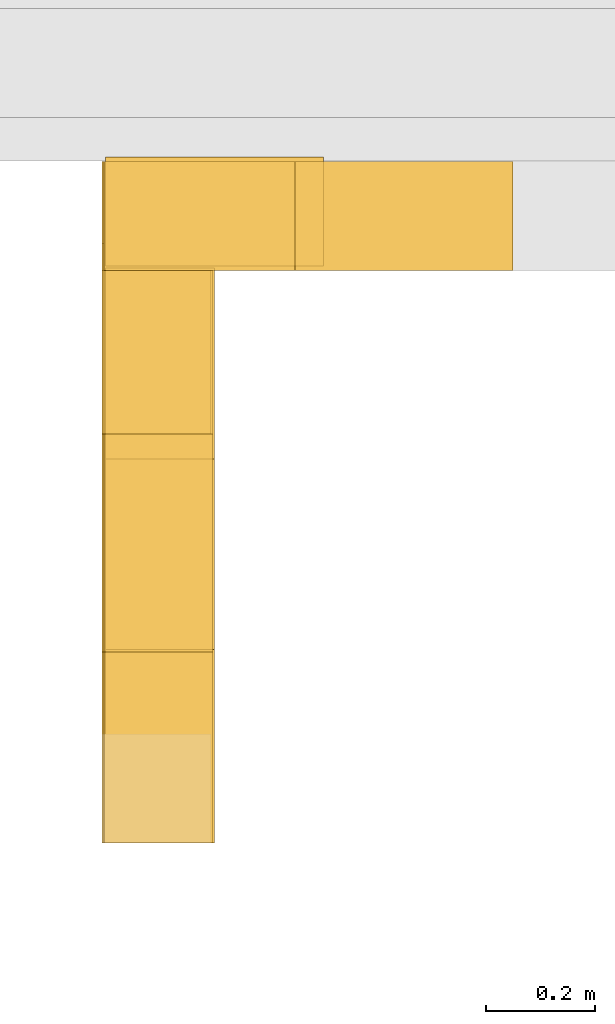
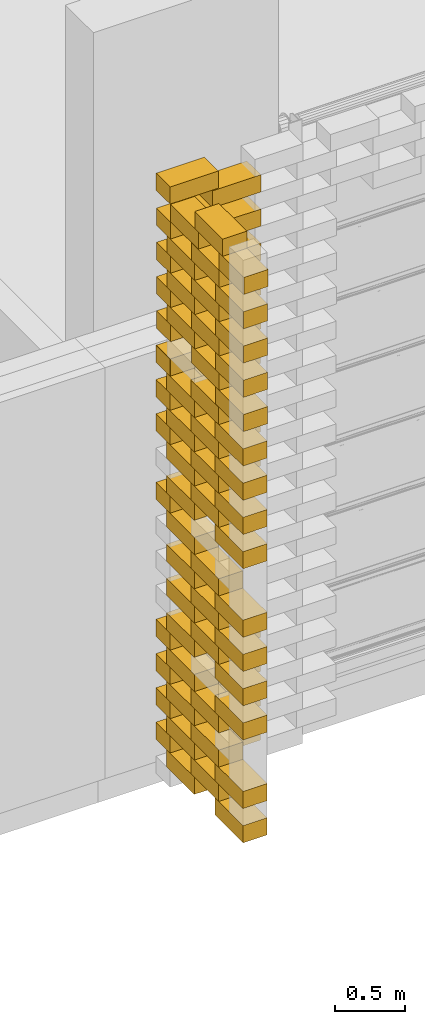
# One storey, part 50 of 62: 72 railings.
"""IFC2X3 building model written with IfcOpenShell, lengths in millimetres."""

from ifc_helpers import new_model, entity, si_unit, converted_unit, derived_unit, money_unit, direction, frame, origin_with_axes, place, context, subcontext, project, spatial, polyline, outline, extrude, material, type_object, element, save


model = new_model("IFC2X3")

# Units and contexts
model_context = context("Model", 3, precision=0.01, world=origin_with_axes(), true_north=direction((0.0, 1.0)))
body_context = subcontext(model_context, "Body", "Model", "MODEL_VIEW")
ifc_project = project(units=[si_unit("LENGTHUNIT", "METRE", prefix="MILLI"), si_unit("AREAUNIT", "SQUARE_METRE"), si_unit("VOLUMEUNIT", "CUBIC_METRE"), converted_unit("PLANEANGLEUNIT", "DEGREE", entity("IfcPlaneAngleMeasure", 0.0174532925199), si_unit("PLANEANGLEUNIT", "RADIAN"), dimensions=[0, 0, 0, 0, 0, 0, 0]), si_unit("SOLIDANGLEUNIT", "STERADIAN"), money_unit("EUR"), converted_unit("TIMEUNIT", "Year", entity("IfcTimeMeasure", 31556926.0), si_unit("TIMEUNIT", "SECOND"), dimensions=[0, 0, 1, 0, 0, 0, 0]), si_unit("MASSUNIT", "GRAM", prefix="KILO"), si_unit("THERMODYNAMICTEMPERATUREUNIT", "DEGREE_CELSIUS"), si_unit("LUMINOUSINTENSITYUNIT", "LUMEN"), si_unit("ENERGYUNIT", "JOULE", prefix="MEGA"), derived_unit("THERMALCONDUCTANCEUNIT", [(si_unit("POWERUNIT", "WATT"), 1), (si_unit("LENGTHUNIT", "METRE"), -1), (si_unit("THERMODYNAMICTEMPERATUREUNIT", "KELVIN"), -1)]), derived_unit("SPECIFICHEATCAPACITYUNIT", [(si_unit("ENERGYUNIT", "JOULE"), 1), (si_unit("MASSUNIT", "GRAM", prefix="KILO"), -1), (si_unit("THERMODYNAMICTEMPERATUREUNIT", "KELVIN"), -1)]), derived_unit("MASSDENSITYUNIT", [(si_unit("MASSUNIT", "GRAM", prefix="KILO"), 1), (si_unit("VOLUMEUNIT", "CUBIC_METRE"), -1)])], contexts=[model_context])

# Site, building, storey
site_placement = place(None, origin_with_axes())
site = spatial("IfcSite", under=ifc_project, at=site_placement, Name="KIRDE 14, ELVA", CompositionType="ELEMENT")
building_placement = place(site_placement, origin_with_axes())
building = spatial("IfcBuilding", under=site, at=building_placement, Name="PPA ja Päästeameti ühishoone", CompositionType="ELEMENT")
storey_placement = place(building_placement, origin_with_axes())
storey = spatial("IfcBuildingStorey", under=building, at=storey_placement, Name="Esimene korrus", CompositionType="ELEMENT", Elevation=0.0)

# Railings
ifc_material = material(Name="Air Space")
railing_type = type_object("IfcRailingType", Name="Air Space 200", PredefinedType="NOTDEFINED")
for number, where, z_axis, x_axis in (
    (1, (9322.96810061, -431.000104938, 2300.0), (0.0, 0.0, 1.0), (1.0, -2.32830643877e-09, 0.0)),
    (2, (9326.56791463, -431.000104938, 3500.0), (0.0, 0.0, 1.0), (1.0, -2.32830643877e-09, 0.0)),
):
    element("IfcRailing", number, at=place(storey_placement, frame(where, z_axis=z_axis, x_axis=x_axis)), inside=storey, type_object=railing_type, material=ifc_material, Name="plokk", PredefinedType="NOTDEFINED", context=body_context, shape_type="SweptSolid", body=[
        extrude(outline(polyline([(0.0, -200.0), (399.999999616, -200.0), (399.999999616, 0.0), (0.0, 0.0), (0.0, -200.0)])), origin_with_axes(), (0.0, 0.0, 1.0), 150.0),
    ])
for number, where, z_axis, x_axis in (
    (3, (9676.56791554, -431.000105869, 4850.0), (0.0, 0.0, 1.0), (1.0, -2.32830643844e-09, 0.0)),
    (4, (9676.56791554, -431.000105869, 3950.0), (0.0, 0.0, 1.0), (1.0, -2.32830643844e-09, 0.0)),
):
    element("IfcRailing", number, at=place(storey_placement, frame(where, z_axis=z_axis, x_axis=x_axis)), inside=storey, type_object=railing_type, material=ifc_material, Name="plokk", PredefinedType="NOTDEFINED", context=body_context, shape_type="SweptSolid", body=[
        extrude(outline(polyline([(0.0, -200.0), (399.999999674, -200.0), (399.999999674, 0.0), (0.0, 0.0), (0.0, -200.0)])), origin_with_axes(), (0.0, 0.0, 1.0), 150.0),
    ])
railing_1_placement = place(storey_placement, frame((9326.56791463, -431.000104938, 3800.0), z_axis=(0.0, 0.0, 1.0), x_axis=(1.0, -2.32830643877e-09, 0.0)))
element("IfcRailing", 5, at=railing_1_placement, inside=storey, type_object=railing_type, material=ifc_material, Name="plokk", PredefinedType="NOTDEFINED", context=body_context, shape_type="SweptSolid", body=[
    extrude(outline(polyline([(0.0, -200.0), (399.999999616, -200.0), (399.999999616, 0.0), (0.0, 0.0), (0.0, -200.0)])), origin_with_axes(), (0.0, 0.0, 1.0), 150.0),
])
railing_2_placement = place(storey_placement, frame((9322.96810095, -931.000105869, 2600.0), z_axis=(0.0, 0.0, 1.0), x_axis=(-4.36557458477e-10, -1.0, 0.0)))
element("IfcRailing", 6, at=railing_2_placement, inside=storey, type_object=railing_type, material=ifc_material, Name="plokk", PredefinedType="NOTDEFINED", context=body_context, shape_type="SweptSolid", body=[
    extrude(outline(polyline([(0.0, 0.0), (399.99999851, 0.0), (399.99999851, 200.0), (0.0, 200.0), (0.0, 0.0)])), origin_with_axes(), (0.0, 0.0, 1.0), 150.0),
])
railing_3_placement = place(storey_placement, frame((9676.56791554, -431.000105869, 3650.0), z_axis=(0.0, 0.0, 1.0), x_axis=(1.0, -2.32830643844e-09, 0.0)))
element("IfcRailing", 7, at=railing_3_placement, inside=storey, type_object=railing_type, material=ifc_material, Name="plokk", PredefinedType="NOTDEFINED", context=body_context, shape_type="SweptSolid", body=[
    extrude(outline(polyline([(0.0, -200.0), (399.999999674, -200.0), (399.999999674, 0.0), (0.0, 0.0), (0.0, -200.0)])), origin_with_axes(), (0.0, 0.0, 1.0), 150.0),
])
railing_4_placement = place(storey_placement, frame((9326.56791463, -431.000104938, 4100.0), z_axis=(0.0, 0.0, 1.0), x_axis=(1.0, -2.32830643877e-09, 0.0)))
element("IfcRailing", 8, at=railing_4_placement, inside=storey, type_object=railing_type, material=ifc_material, Name="plokk", PredefinedType="NOTDEFINED", context=body_context, shape_type="SweptSolid", body=[
    extrude(outline(polyline([(0.0, -200.0), (399.999999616, -200.0), (399.999999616, 0.0), (0.0, 0.0), (0.0, -200.0)])), origin_with_axes(), (0.0, 0.0, 1.0), 150.0),
])
railing_5_placement = place(storey_placement, frame((9676.56791554, -431.000105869, 4250.0), z_axis=(0.0, 0.0, 1.0), x_axis=(1.0, -2.32830643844e-09, 0.0)))
element("IfcRailing", 9, at=railing_5_placement, inside=storey, type_object=railing_type, material=ifc_material, Name="plokk", PredefinedType="NOTDEFINED", context=body_context, shape_type="SweptSolid", body=[
    extrude(outline(polyline([(0.0, -200.0), (399.999999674, -200.0), (399.999999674, 0.0), (0.0, 0.0), (0.0, -200.0)])), origin_with_axes(), (0.0, 0.0, 1.0), 150.0),
])
railing_6_placement = place(storey_placement, frame((9326.56791463, -431.000104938, 4400.0), z_axis=(0.0, 0.0, 1.0), x_axis=(1.0, -2.32830643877e-09, 0.0)))
element("IfcRailing", 10, at=railing_6_placement, inside=storey, type_object=railing_type, material=ifc_material, Name="plokk", PredefinedType="NOTDEFINED", context=body_context, shape_type="SweptSolid", body=[
    extrude(outline(polyline([(0.0, -200.0), (399.999999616, -200.0), (399.999999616, 0.0), (0.0, 0.0), (0.0, -200.0)])), origin_with_axes(), (0.0, 0.0, 1.0), 150.0),
])
railing_7_placement = place(storey_placement, frame((9676.56791554, -431.000105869, 4550.0), z_axis=(0.0, 0.0, 1.0), x_axis=(1.0, -2.32830643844e-09, 0.0)))
element("IfcRailing", 11, at=railing_7_placement, inside=storey, type_object=railing_type, material=ifc_material, Name="plokk", PredefinedType="NOTDEFINED", context=body_context, shape_type="SweptSolid", body=[
    extrude(outline(polyline([(0.0, -200.0), (399.999999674, -200.0), (399.999999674, 0.0), (0.0, 0.0), (0.0, -200.0)])), origin_with_axes(), (0.0, 0.0, 1.0), 150.0),
])
railing_8_placement = place(storey_placement, frame((9326.56791498, -1281.0001055, 3650.0), z_axis=(0.0, 0.0, 1.0), x_axis=(-8.73114912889e-10, -1.0, 0.0)))
element("IfcRailing", 12, at=railing_8_placement, inside=storey, type_object=railing_type, material=ifc_material, Name="plokk", PredefinedType="NOTDEFINED", context=body_context, shape_type="SweptSolid", body=[
    extrude(outline(polyline([(0.0, 0.0), (400.000000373, 0.0), (400.000000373, 200.0), (0.0, 200.0), (0.0, 0.0)])), origin_with_axes(), (0.0, 0.0, 1.0), 150.0),
])
railing_9_placement = place(storey_placement, frame((9326.56791498, -931.000105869, 3800.0), z_axis=(0.0, 0.0, 1.0), x_axis=(-4.36557458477e-10, -1.0, 0.0)))
element("IfcRailing", 13, at=railing_9_placement, inside=storey, type_object=railing_type, material=ifc_material, Name="plokk", PredefinedType="NOTDEFINED", context=body_context, shape_type="SweptSolid", body=[
    extrude(outline(polyline([(0.0, 0.0), (399.99999851, 0.0), (399.99999851, 200.0), (0.0, 200.0), (0.0, 0.0)])), origin_with_axes(), (0.0, 0.0, 1.0), 150.0),
])
for number, where, z_axis, x_axis in (
    (14, (9326.56791463, -431.000104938, 4700.0), (0.0, 0.0, 1.0), (1.0, -2.32830643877e-09, 0.0)),
    (15, (9329.50689879, -422.760603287, 5000.0), (0.0, 0.0, 1.0), (1.0, -2.32830643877e-09, 0.0)),
):
    element("IfcRailing", number, at=place(storey_placement, frame(where, z_axis=z_axis, x_axis=x_axis)), inside=storey, type_object=railing_type, material=ifc_material, Name="plokk", PredefinedType="NOTDEFINED", context=body_context, shape_type="SweptSolid", body=[
        extrude(outline(polyline([(0.0, -200.0), (399.999999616, -200.0), (399.999999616, 0.0), (0.0, 0.0), (0.0, -200.0)])), origin_with_axes(), (0.0, 0.0, 1.0), 150.0),
    ])
for number, where, z_axis, x_axis in (
    (16, (9326.56791544, -581.000105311, 3950.0), (0.0, 0.0, 1.0), (1.45519152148e-10, -1.0, 0.0)),
    (17, (9326.56791498, -1281.0001055, 3950.0), (0.0, 0.0, 1.0), (-8.73114912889e-10, -1.0, 0.0)),
):
    element("IfcRailing", number, at=place(storey_placement, frame(where, z_axis=z_axis, x_axis=x_axis)), inside=storey, type_object=railing_type, material=ifc_material, Name="plokk", PredefinedType="NOTDEFINED", context=body_context, shape_type="SweptSolid", body=[
        extrude(outline(polyline([(0.0, 0.0), (400.000000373, 0.0), (400.000000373, 200.0), (0.0, 200.0), (0.0, 0.0)])), origin_with_axes(), (0.0, 0.0, 1.0), 150.0),
    ])
railing_10_placement = place(storey_placement, frame((9326.56791498, -931.000105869, 4100.0), z_axis=(0.0, 0.0, 1.0), x_axis=(-4.36557458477e-10, -1.0, 0.0)))
element("IfcRailing", 18, at=railing_10_placement, inside=storey, type_object=railing_type, material=ifc_material, Name="plokk", PredefinedType="NOTDEFINED", context=body_context, shape_type="SweptSolid", body=[
    extrude(outline(polyline([(0.0, 0.0), (399.99999851, 0.0), (399.99999851, 200.0), (0.0, 200.0), (0.0, 0.0)])), origin_with_axes(), (0.0, 0.0, 1.0), 150.0),
])
for number, where, z_axis, x_axis in (
    (19, (9326.56791544, -581.000105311, 4250.0), (0.0, 0.0, 1.0), (1.45519152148e-10, -1.0, 0.0)),
    (20, (9326.56791498, -1281.0001055, 4250.0), (0.0, 0.0, 1.0), (-8.73114912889e-10, -1.0, 0.0)),
):
    element("IfcRailing", number, at=place(storey_placement, frame(where, z_axis=z_axis, x_axis=x_axis)), inside=storey, type_object=railing_type, material=ifc_material, Name="plokk", PredefinedType="NOTDEFINED", context=body_context, shape_type="SweptSolid", body=[
        extrude(outline(polyline([(0.0, 0.0), (400.000000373, 0.0), (400.000000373, 200.0), (0.0, 200.0), (0.0, 0.0)])), origin_with_axes(), (0.0, 0.0, 1.0), 150.0),
    ])
railing_11_placement = place(storey_placement, frame((9326.56791498, -931.000105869, 4400.0), z_axis=(0.0, 0.0, 1.0), x_axis=(-4.36557458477e-10, -1.0, 0.0)))
element("IfcRailing", 21, at=railing_11_placement, inside=storey, type_object=railing_type, material=ifc_material, Name="plokk", PredefinedType="NOTDEFINED", context=body_context, shape_type="SweptSolid", body=[
    extrude(outline(polyline([(0.0, 0.0), (399.99999851, 0.0), (399.99999851, 200.0), (0.0, 200.0), (0.0, 0.0)])), origin_with_axes(), (0.0, 0.0, 1.0), 150.0),
])
for number, where, z_axis, x_axis in (
    (22, (9326.56791544, -581.000105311, 4550.0), (0.0, 0.0, 1.0), (1.45519152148e-10, -1.0, 0.0)),
    (23, (9326.56791498, -1281.0001055, 4550.0), (0.0, 0.0, 1.0), (-8.73114912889e-10, -1.0, 0.0)),
):
    element("IfcRailing", number, at=place(storey_placement, frame(where, z_axis=z_axis, x_axis=x_axis)), inside=storey, type_object=railing_type, material=ifc_material, Name="plokk", PredefinedType="NOTDEFINED", context=body_context, shape_type="SweptSolid", body=[
        extrude(outline(polyline([(0.0, 0.0), (400.000000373, 0.0), (400.000000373, 200.0), (0.0, 200.0), (0.0, 0.0)])), origin_with_axes(), (0.0, 0.0, 1.0), 150.0),
    ])
railing_12_placement = place(storey_placement, frame((9326.56791498, -931.000105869, 4700.0), z_axis=(0.0, 0.0, 1.0), x_axis=(-4.36557458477e-10, -1.0, 0.0)))
element("IfcRailing", 24, at=railing_12_placement, inside=storey, type_object=railing_type, material=ifc_material, Name="plokk", PredefinedType="NOTDEFINED", context=body_context, shape_type="SweptSolid", body=[
    extrude(outline(polyline([(0.0, 0.0), (399.99999851, 0.0), (399.99999851, 200.0), (0.0, 200.0), (0.0, 0.0)])), origin_with_axes(), (0.0, 0.0, 1.0), 150.0),
])
railing_13_placement = place(storey_placement, frame((9329.50689914, -1326.36502265, 4850.0), z_axis=(0.0, 0.0, 1.0), x_axis=(0.0, -1.0, 0.0)))
element("IfcRailing", 25, at=railing_13_placement, inside=storey, type_object=railing_type, material=ifc_material, Name="plokk", PredefinedType="NOTDEFINED", context=body_context, shape_type="SweptSolid", body=[
    extrude(outline(polyline([(0.0, 0.0), (354.635083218, 0.0), (354.635083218, 200.0), (0.0, 200.0), (0.0, 0.0)])), origin_with_axes(), (0.0, 0.0, 1.0), 150.0),
])
railing_14_placement = place(storey_placement, frame((9322.96810095, -1281.0001055, 3350.0), z_axis=(0.0, 0.0, 1.0), x_axis=(-8.73114912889e-10, -1.0, 0.0)))
element("IfcRailing", 26, at=railing_14_placement, inside=storey, type_object=railing_type, material=ifc_material, Name="plokk", PredefinedType="NOTDEFINED", context=body_context, shape_type="SweptSolid", body=[
    extrude(outline(polyline([(0.0, 0.0), (400.000000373, 0.0), (400.000000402, 200.0), (0.0, 200.0), (0.0, 0.0)])), origin_with_axes(), (0.0, 0.0, 1.0), 150.0),
])
for number, where, z_axis, x_axis in (
    (27, (9322.96810061, -431.000104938, 200.0), (0.0, 0.0, 1.0), (1.0, -2.32830643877e-09, 0.0)),
    (28, (9322.96810061, -431.000104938, 500.0), (0.0, 0.0, 1.0), (1.0, -2.32830643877e-09, 0.0)),
):
    element("IfcRailing", number, at=place(storey_placement, frame(where, z_axis=z_axis, x_axis=x_axis)), inside=storey, type_object=railing_type, material=ifc_material, Name="plokk", PredefinedType="NOTDEFINED", context=body_context, shape_type="SweptSolid", body=[
        extrude(outline(polyline([(0.0, -200.0), (399.999999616, -200.0), (399.999999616, 0.0), (0.0, 0.0), (0.0, -200.0)])), origin_with_axes(), (0.0, 0.0, 1.0), 150.0),
    ])
railing_15_placement = place(storey_placement, frame((9322.96810095, -1281.0001055, 3050.0), z_axis=(0.0, 0.0, 1.0), x_axis=(-8.73114912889e-10, -1.0, 0.0)))
element("IfcRailing", 29, at=railing_15_placement, inside=storey, type_object=railing_type, material=ifc_material, Name="plokk", PredefinedType="NOTDEFINED", context=body_context, shape_type="SweptSolid", body=[
    extrude(outline(polyline([(0.0, 0.0), (400.000000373, 0.0), (400.000000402, 200.0), (0.0, 200.0), (0.0, 0.0)])), origin_with_axes(), (0.0, 0.0, 1.0), 150.0),
])
railing_16_placement = place(storey_placement, frame((9322.96810142, -581.000105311, 650.0), z_axis=(0.0, 0.0, 1.0), x_axis=(1.45519152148e-10, -1.0, 0.0)))
element("IfcRailing", 30, at=railing_16_placement, inside=storey, type_object=railing_type, material=ifc_material, Name="plokk", PredefinedType="NOTDEFINED", context=body_context, shape_type="SweptSolid", body=[
    extrude(outline(polyline([(0.0, 0.0), (400.000000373, 0.0), (400.000000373, 200.0), (0.0, 200.0), (0.0, 0.0)])), origin_with_axes(), (0.0, 0.0, 1.0), 150.0),
])
railing_17_placement = place(storey_placement, frame((9672.96810151, -431.000105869, 2750.0), z_axis=(0.0, 0.0, 1.0), x_axis=(1.0, -2.32830643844e-09, 0.0)))
element("IfcRailing", 31, at=railing_17_placement, inside=storey, type_object=railing_type, material=ifc_material, Name="plokk", PredefinedType="NOTDEFINED", context=body_context, shape_type="SweptSolid", body=[
    extrude(outline(polyline([(0.0, -200.0), (399.999999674, -200.0), (399.999999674, 0.0), (0.0, 0.0), (0.0, -200.0)])), origin_with_axes(), (0.0, 0.0, 1.0), 150.0),
])
railing_18_placement = place(storey_placement, frame((9322.96810061, -431.000104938, 3500.0), z_axis=(0.0, 0.0, 1.0), x_axis=(1.0, -2.32830643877e-09, 0.0)))
element("IfcRailing", 32, at=railing_18_placement, inside=storey, type_object=railing_type, material=ifc_material, Name="plokk", PredefinedType="NOTDEFINED", context=body_context, shape_type="SweptSolid", body=[
    extrude(outline(polyline([(0.0, -200.0), (399.999999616, -200.0), (399.999999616, 0.0), (0.0, 0.0), (0.0, -200.0)])), origin_with_axes(), (0.0, 0.0, 1.0), 150.0),
])
for number, where, z_axis, x_axis in (
    (33, (9672.96810151, -431.000105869, 950.0), (0.0, 0.0, 1.0), (1.0, -2.32830643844e-09, 0.0)),
    (34, (9672.96810151, -431.000105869, 350.0), (0.0, 0.0, 1.0), (1.0, -2.32830643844e-09, 0.0)),
):
    element("IfcRailing", number, at=place(storey_placement, frame(where, z_axis=z_axis, x_axis=x_axis)), inside=storey, type_object=railing_type, material=ifc_material, Name="plokk", PredefinedType="NOTDEFINED", context=body_context, shape_type="SweptSolid", body=[
        extrude(outline(polyline([(0.0, -200.0), (399.999999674, -200.0), (399.999999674, 0.0), (0.0, 0.0), (0.0, -200.0)])), origin_with_axes(), (0.0, 0.0, 1.0), 150.0),
    ])
railing_19_placement = place(storey_placement, frame((9322.96810142, -581.000105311, 950.0), z_axis=(0.0, 0.0, 1.0), x_axis=(1.45519152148e-10, -1.0, 0.0)))
element("IfcRailing", 35, at=railing_19_placement, inside=storey, type_object=railing_type, material=ifc_material, Name="plokk", PredefinedType="NOTDEFINED", context=body_context, shape_type="SweptSolid", body=[
    extrude(outline(polyline([(0.0, 0.0), (400.000000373, 0.0), (400.000000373, 200.0), (0.0, 200.0), (0.0, 0.0)])), origin_with_axes(), (0.0, 0.0, 1.0), 150.0),
])
for number, where, z_axis, x_axis in (
    (36, (9322.96810061, -431.000104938, 1100.0), (0.0, 0.0, 1.0), (1.0, -2.32830643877e-09, 0.0)),
    (37, (9322.96810061, -431.000104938, 800.0), (0.0, 0.0, 1.0), (1.0, -2.32830643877e-09, 0.0)),
):
    element("IfcRailing", number, at=place(storey_placement, frame(where, z_axis=z_axis, x_axis=x_axis)), inside=storey, type_object=railing_type, material=ifc_material, Name="plokk", PredefinedType="NOTDEFINED", context=body_context, shape_type="SweptSolid", body=[
        extrude(outline(polyline([(0.0, -200.0), (399.999999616, -200.0), (399.999999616, 0.0), (0.0, 0.0), (0.0, -200.0)])), origin_with_axes(), (0.0, 0.0, 1.0), 150.0),
    ])
for number, where, z_axis, x_axis in (
    (38, (9672.96810151, -431.000105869, 650.0), (0.0, 0.0, 1.0), (1.0, -2.32830643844e-09, 0.0)),
    (39, (9672.96810151, -431.000105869, 2450.0), (0.0, 0.0, 1.0), (1.0, -2.32830643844e-09, 0.0)),
):
    element("IfcRailing", number, at=place(storey_placement, frame(where, z_axis=z_axis, x_axis=x_axis)), inside=storey, type_object=railing_type, material=ifc_material, Name="plokk", PredefinedType="NOTDEFINED", context=body_context, shape_type="SweptSolid", body=[
        extrude(outline(polyline([(0.0, -200.0), (399.999999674, -200.0), (399.999999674, 0.0), (0.0, 0.0), (0.0, -200.0)])), origin_with_axes(), (0.0, 0.0, 1.0), 150.0),
    ])
railing_20_placement = place(storey_placement, frame((9322.96810095, -1281.0001055, 950.0), z_axis=(0.0, 0.0, 1.0), x_axis=(-8.73114912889e-10, -1.0, 0.0)))
element("IfcRailing", 40, at=railing_20_placement, inside=storey, type_object=railing_type, material=ifc_material, Name="plokk", PredefinedType="NOTDEFINED", context=body_context, shape_type="SweptSolid", body=[
    extrude(outline(polyline([(0.0, 0.0), (400.000000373, 0.0), (400.000000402, 200.0), (0.0, 200.0), (0.0, 0.0)])), origin_with_axes(), (0.0, 0.0, 1.0), 150.0),
])
railing_21_placement = place(storey_placement, frame((9329.5068996, -626.365022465, 4850.0), z_axis=(0.0, 0.0, 1.0), x_axis=(1.45519152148e-10, -1.0, 0.0)))
element("IfcRailing", 41, at=railing_21_placement, inside=storey, type_object=railing_type, material=ifc_material, Name="plokk", PredefinedType="NOTDEFINED", context=body_context, shape_type="SweptSolid", body=[
    extrude(outline(polyline([(0.0, 0.0), (400.000000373, 0.0), (400.000000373, 200.0), (0.0, 200.0), (0.0, 0.0)])), origin_with_axes(), (0.0, 0.0, 1.0), 150.0),
])
for number, where, z_axis, x_axis in (
    (42, (9322.96810095, -931.000105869, 2900.0), (0.0, 0.0, 1.0), (-4.36557458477e-10, -1.0, 0.0)),
    (43, (9322.96810095, -931.000105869, 3500.0), (0.0, 0.0, 1.0), (-4.36557458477e-10, -1.0, 0.0)),
):
    element("IfcRailing", number, at=place(storey_placement, frame(where, z_axis=z_axis, x_axis=x_axis)), inside=storey, type_object=railing_type, material=ifc_material, Name="plokk", PredefinedType="NOTDEFINED", context=body_context, shape_type="SweptSolid", body=[
        extrude(outline(polyline([(0.0, 0.0), (399.99999851, 0.0), (399.99999851, 200.0), (0.0, 200.0), (0.0, 0.0)])), origin_with_axes(), (0.0, 0.0, 1.0), 150.0),
    ])
for number, where, z_axis, x_axis in (
    (44, (9322.96810142, -581.000105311, 3350.0), (0.0, 0.0, 1.0), (1.45519152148e-10, -1.0, 0.0)),
    (45, (9322.96810142, -581.000105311, 3050.0), (0.0, 0.0, 1.0), (1.45519152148e-10, -1.0, 0.0)),
):
    element("IfcRailing", number, at=place(storey_placement, frame(where, z_axis=z_axis, x_axis=x_axis)), inside=storey, type_object=railing_type, material=ifc_material, Name="plokk", PredefinedType="NOTDEFINED", context=body_context, shape_type="SweptSolid", body=[
        extrude(outline(polyline([(0.0, 0.0), (400.000000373, 0.0), (400.000000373, 200.0), (0.0, 200.0), (0.0, 0.0)])), origin_with_axes(), (0.0, 0.0, 1.0), 150.0),
    ])
railing_22_placement = place(storey_placement, frame((9322.96810095, -1281.0001055, 2750.0), z_axis=(0.0, 0.0, 1.0), x_axis=(-8.73114912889e-10, -1.0, 0.0)))
element("IfcRailing", 46, at=railing_22_placement, inside=storey, type_object=railing_type, material=ifc_material, Name="plokk", PredefinedType="NOTDEFINED", context=body_context, shape_type="SweptSolid", body=[
    extrude(outline(polyline([(0.0, 0.0), (400.000000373, 0.0), (400.000000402, 200.0), (0.0, 200.0), (0.0, 0.0)])), origin_with_axes(), (0.0, 0.0, 1.0), 150.0),
])
railing_23_placement = place(storey_placement, frame((9322.96810095, -931.000105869, 800.0), z_axis=(0.0, 0.0, 1.0), x_axis=(-4.36557458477e-10, -1.0, 0.0)))
element("IfcRailing", 47, at=railing_23_placement, inside=storey, type_object=railing_type, material=ifc_material, Name="plokk", PredefinedType="NOTDEFINED", context=body_context, shape_type="SweptSolid", body=[
    extrude(outline(polyline([(0.0, 0.0), (399.99999851, 0.0), (399.99999851, 200.0), (0.0, 200.0), (0.0, 0.0)])), origin_with_axes(), (0.0, 0.0, 1.0), 150.0),
])
railing_24_placement = place(storey_placement, frame((9322.96810061, -431.000104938, 2900.0), z_axis=(0.0, 0.0, 1.0), x_axis=(1.0, -2.32830643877e-09, 0.0)))
element("IfcRailing", 48, at=railing_24_placement, inside=storey, type_object=railing_type, material=ifc_material, Name="plokk", PredefinedType="NOTDEFINED", context=body_context, shape_type="SweptSolid", body=[
    extrude(outline(polyline([(0.0, -200.0), (399.999999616, -200.0), (399.999999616, 0.0), (0.0, 0.0), (0.0, -200.0)])), origin_with_axes(), (0.0, 0.0, 1.0), 150.0),
])
railing_25_placement = place(storey_placement, frame((9322.96810142, -581.000105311, 2750.0), z_axis=(0.0, 0.0, 1.0), x_axis=(1.45519152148e-10, -1.0, 0.0)))
element("IfcRailing", 49, at=railing_25_placement, inside=storey, type_object=railing_type, material=ifc_material, Name="plokk", PredefinedType="NOTDEFINED", context=body_context, shape_type="SweptSolid", body=[
    extrude(outline(polyline([(0.0, 0.0), (400.000000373, 0.0), (400.000000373, 200.0), (0.0, 200.0), (0.0, 0.0)])), origin_with_axes(), (0.0, 0.0, 1.0), 150.0),
])
railing_26_placement = place(storey_placement, frame((9322.96810061, -431.000104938, 3200.0), z_axis=(0.0, 0.0, 1.0), x_axis=(1.0, -2.32830643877e-09, 0.0)))
element("IfcRailing", 50, at=railing_26_placement, inside=storey, type_object=railing_type, material=ifc_material, Name="plokk", PredefinedType="NOTDEFINED", context=body_context, shape_type="SweptSolid", body=[
    extrude(outline(polyline([(0.0, -200.0), (399.999999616, -200.0), (399.999999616, 0.0), (0.0, 0.0), (0.0, -200.0)])), origin_with_axes(), (0.0, 0.0, 1.0), 150.0),
])
railing_27_placement = place(storey_placement, frame((9322.96810142, -581.000105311, 50.0), z_axis=(0.0, 0.0, 1.0), x_axis=(1.45519152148e-10, -1.0, 0.0)))
element("IfcRailing", 51, at=railing_27_placement, inside=storey, type_object=railing_type, material=ifc_material, Name="plokk", PredefinedType="NOTDEFINED", context=body_context, shape_type="SweptSolid", body=[
    extrude(outline(polyline([(0.0, 0.0), (400.000000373, 0.0), (400.000000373, 200.0), (0.0, 200.0), (0.0, 0.0)])), origin_with_axes(), (0.0, 0.0, 1.0), 150.0),
])
railing_28_placement = place(storey_placement, frame((9322.96810095, -1281.0001055, 50.0), z_axis=(0.0, 0.0, 1.0), x_axis=(-8.73114912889e-10, -1.0, 0.0)))
element("IfcRailing", 52, at=railing_28_placement, inside=storey, type_object=railing_type, material=ifc_material, Name="plokk", PredefinedType="NOTDEFINED", context=body_context, shape_type="SweptSolid", body=[
    extrude(outline(polyline([(0.0, 0.0), (400.000000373, 0.0), (400.000000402, 200.0), (0.0, 200.0), (0.0, 0.0)])), origin_with_axes(), (0.0, 0.0, 1.0), 150.0),
])
railing_29_placement = place(storey_placement, frame((9322.96810095, -931.000105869, 200.0), z_axis=(0.0, 0.0, 1.0), x_axis=(-4.36557458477e-10, -1.0, 0.0)))
element("IfcRailing", 53, at=railing_29_placement, inside=storey, type_object=railing_type, material=ifc_material, Name="plokk", PredefinedType="NOTDEFINED", context=body_context, shape_type="SweptSolid", body=[
    extrude(outline(polyline([(0.0, 0.0), (399.99999851, 0.0), (399.99999851, 200.0), (0.0, 200.0), (0.0, 0.0)])), origin_with_axes(), (0.0, 0.0, 1.0), 150.0),
])
railing_30_placement = place(storey_placement, frame((9322.96810142, -581.000105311, 350.0), z_axis=(0.0, 0.0, 1.0), x_axis=(1.45519152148e-10, -1.0, 0.0)))
element("IfcRailing", 54, at=railing_30_placement, inside=storey, type_object=railing_type, material=ifc_material, Name="plokk", PredefinedType="NOTDEFINED", context=body_context, shape_type="SweptSolid", body=[
    extrude(outline(polyline([(0.0, 0.0), (400.000000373, 0.0), (400.000000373, 200.0), (0.0, 200.0), (0.0, 0.0)])), origin_with_axes(), (0.0, 0.0, 1.0), 150.0),
])
railing_31_placement = place(storey_placement, frame((9672.96810151, -431.000105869, 3350.0), z_axis=(0.0, 0.0, 1.0), x_axis=(1.0, -2.32830643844e-09, 0.0)))
element("IfcRailing", 55, at=railing_31_placement, inside=storey, type_object=railing_type, material=ifc_material, Name="plokk", PredefinedType="NOTDEFINED", context=body_context, shape_type="SweptSolid", body=[
    extrude(outline(polyline([(0.0, -200.0), (399.999999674, -200.0), (399.999999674, 0.0), (0.0, 0.0), (0.0, -200.0)])), origin_with_axes(), (0.0, 0.0, 1.0), 150.0),
])
railing_32_placement = place(storey_placement, frame((9322.96810095, -1281.0001055, 350.0), z_axis=(0.0, 0.0, 1.0), x_axis=(-8.73114912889e-10, -1.0, 0.0)))
element("IfcRailing", 56, at=railing_32_placement, inside=storey, type_object=railing_type, material=ifc_material, Name="plokk", PredefinedType="NOTDEFINED", context=body_context, shape_type="SweptSolid", body=[
    extrude(outline(polyline([(0.0, 0.0), (400.000000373, 0.0), (400.000000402, 200.0), (0.0, 200.0), (0.0, 0.0)])), origin_with_axes(), (0.0, 0.0, 1.0), 150.0),
])
railing_33_placement = place(storey_placement, frame((9322.96810095, -931.000105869, 500.0), z_axis=(0.0, 0.0, 1.0), x_axis=(-4.36557458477e-10, -1.0, 0.0)))
element("IfcRailing", 57, at=railing_33_placement, inside=storey, type_object=railing_type, material=ifc_material, Name="plokk", PredefinedType="NOTDEFINED", context=body_context, shape_type="SweptSolid", body=[
    extrude(outline(polyline([(0.0, 0.0), (399.99999851, 0.0), (399.99999851, 200.0), (0.0, 200.0), (0.0, 0.0)])), origin_with_axes(), (0.0, 0.0, 1.0), 150.0),
])
railing_34_placement = place(storey_placement, frame((9322.96810142, -581.000105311, 2450.0), z_axis=(0.0, 0.0, 1.0), x_axis=(1.45519152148e-10, -1.0, 0.0)))
element("IfcRailing", 58, at=railing_34_placement, inside=storey, type_object=railing_type, material=ifc_material, Name="plokk", PredefinedType="NOTDEFINED", context=body_context, shape_type="SweptSolid", body=[
    extrude(outline(polyline([(0.0, 0.0), (400.000000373, 0.0), (400.000000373, 200.0), (0.0, 200.0), (0.0, 0.0)])), origin_with_axes(), (0.0, 0.0, 1.0), 150.0),
])
railing_35_placement = place(storey_placement, frame((9322.96810095, -1281.0001055, 2450.0), z_axis=(0.0, 0.0, 1.0), x_axis=(-8.73114912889e-10, -1.0, 0.0)))
element("IfcRailing", 59, at=railing_35_placement, inside=storey, type_object=railing_type, material=ifc_material, Name="plokk", PredefinedType="NOTDEFINED", context=body_context, shape_type="SweptSolid", body=[
    extrude(outline(polyline([(0.0, 0.0), (400.000000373, 0.0), (400.000000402, 200.0), (0.0, 200.0), (0.0, 0.0)])), origin_with_axes(), (0.0, 0.0, 1.0), 150.0),
])
railing_36_placement = place(storey_placement, frame((9322.96810095, -931.000105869, 3200.0), z_axis=(0.0, 0.0, 1.0), x_axis=(-4.36557458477e-10, -1.0, 0.0)))
element("IfcRailing", 60, at=railing_36_placement, inside=storey, type_object=railing_type, material=ifc_material, Name="plokk", PredefinedType="NOTDEFINED", context=body_context, shape_type="SweptSolid", body=[
    extrude(outline(polyline([(0.0, 0.0), (399.99999851, 0.0), (399.99999851, 200.0), (0.0, 200.0), (0.0, 0.0)])), origin_with_axes(), (0.0, 0.0, 1.0), 150.0),
])
railing_37_placement = place(storey_placement, frame((9672.96810151, -431.000105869, 50.0), z_axis=(0.0, 0.0, 1.0), x_axis=(1.0, -2.32830643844e-09, 0.0)))
element("IfcRailing", 61, at=railing_37_placement, inside=storey, type_object=railing_type, material=ifc_material, Name="plokk", PredefinedType="NOTDEFINED", context=body_context, shape_type="SweptSolid", body=[
    extrude(outline(polyline([(0.0, -200.0), (399.999999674, -200.0), (399.999999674, 0.0), (0.0, 0.0), (0.0, -200.0)])), origin_with_axes(), (0.0, 0.0, 1.0), 150.0),
])
railing_38_placement = place(storey_placement, frame((9322.96810142, -581.000105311, 1250.0), z_axis=(0.0, 0.0, 1.0), x_axis=(1.45519152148e-10, -1.0, 0.0)))
element("IfcRailing", 62, at=railing_38_placement, inside=storey, type_object=railing_type, material=ifc_material, Name="plokk", PredefinedType="NOTDEFINED", context=body_context, shape_type="SweptSolid", body=[
    extrude(outline(polyline([(0.0, 0.0), (400.000000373, 0.0), (400.000000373, 200.0), (0.0, 200.0), (0.0, 0.0)])), origin_with_axes(), (0.0, 0.0, 1.0), 150.0),
])
railing_39_placement = place(storey_placement, frame((9322.96810095, -1281.0001055, 1250.0), z_axis=(0.0, 0.0, 1.0), x_axis=(-8.73114912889e-10, -1.0, 0.0)))
element("IfcRailing", 63, at=railing_39_placement, inside=storey, type_object=railing_type, material=ifc_material, Name="plokk", PredefinedType="NOTDEFINED", context=body_context, shape_type="SweptSolid", body=[
    extrude(outline(polyline([(0.0, 0.0), (400.000000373, 0.0), (400.000000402, 200.0), (0.0, 200.0), (0.0, 0.0)])), origin_with_axes(), (0.0, 0.0, 1.0), 150.0),
])
railing_40_placement = place(storey_placement, frame((9322.96810095, -931.000105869, 1400.0), z_axis=(0.0, 0.0, 1.0), x_axis=(-4.36557458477e-10, -1.0, 0.0)))
element("IfcRailing", 64, at=railing_40_placement, inside=storey, type_object=railing_type, material=ifc_material, Name="plokk", PredefinedType="NOTDEFINED", context=body_context, shape_type="SweptSolid", body=[
    extrude(outline(polyline([(0.0, 0.0), (399.99999851, 0.0), (399.99999851, 200.0), (0.0, 200.0), (0.0, 0.0)])), origin_with_axes(), (0.0, 0.0, 1.0), 150.0),
])
railing_41_placement = place(storey_placement, frame((9322.96810142, -581.000105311, 1550.0), z_axis=(0.0, 0.0, 1.0), x_axis=(1.45519152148e-10, -1.0, 0.0)))
element("IfcRailing", 65, at=railing_41_placement, inside=storey, type_object=railing_type, material=ifc_material, Name="plokk", PredefinedType="NOTDEFINED", context=body_context, shape_type="SweptSolid", body=[
    extrude(outline(polyline([(0.0, 0.0), (400.000000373, 0.0), (400.000000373, 200.0), (0.0, 200.0), (0.0, 0.0)])), origin_with_axes(), (0.0, 0.0, 1.0), 150.0),
])
railing_42_placement = place(storey_placement, frame((9322.96810095, -1281.0001055, 1550.0), z_axis=(0.0, 0.0, 1.0), x_axis=(-8.73114912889e-10, -1.0, 0.0)))
element("IfcRailing", 66, at=railing_42_placement, inside=storey, type_object=railing_type, material=ifc_material, Name="plokk", PredefinedType="NOTDEFINED", context=body_context, shape_type="SweptSolid", body=[
    extrude(outline(polyline([(0.0, 0.0), (400.000000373, 0.0), (400.000000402, 200.0), (0.0, 200.0), (0.0, 0.0)])), origin_with_axes(), (0.0, 0.0, 1.0), 150.0),
])
railing_43_placement = place(storey_placement, frame((9322.96810095, -931.000105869, 1700.0), z_axis=(0.0, 0.0, 1.0), x_axis=(-4.36557458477e-10, -1.0, 0.0)))
element("IfcRailing", 67, at=railing_43_placement, inside=storey, type_object=railing_type, material=ifc_material, Name="plokk", PredefinedType="NOTDEFINED", context=body_context, shape_type="SweptSolid", body=[
    extrude(outline(polyline([(0.0, 0.0), (399.99999851, 0.0), (399.99999851, 200.0), (0.0, 200.0), (0.0, 0.0)])), origin_with_axes(), (0.0, 0.0, 1.0), 150.0),
])
railing_44_placement = place(storey_placement, frame((9322.96810142, -581.000105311, 1850.0), z_axis=(0.0, 0.0, 1.0), x_axis=(1.45519152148e-10, -1.0, 0.0)))
element("IfcRailing", 68, at=railing_44_placement, inside=storey, type_object=railing_type, material=ifc_material, Name="plokk", PredefinedType="NOTDEFINED", context=body_context, shape_type="SweptSolid", body=[
    extrude(outline(polyline([(0.0, 0.0), (400.000000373, 0.0), (400.000000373, 200.0), (0.0, 200.0), (0.0, 0.0)])), origin_with_axes(), (0.0, 0.0, 1.0), 150.0),
])
railing_45_placement = place(storey_placement, frame((9322.96810095, -1281.0001055, 1850.0), z_axis=(0.0, 0.0, 1.0), x_axis=(-8.73114912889e-10, -1.0, 0.0)))
element("IfcRailing", 69, at=railing_45_placement, inside=storey, type_object=railing_type, material=ifc_material, Name="plokk", PredefinedType="NOTDEFINED", context=body_context, shape_type="SweptSolid", body=[
    extrude(outline(polyline([(0.0, 0.0), (400.000000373, 0.0), (400.000000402, 200.0), (0.0, 200.0), (0.0, 0.0)])), origin_with_axes(), (0.0, 0.0, 1.0), 150.0),
])
railing_46_placement = place(storey_placement, frame((9322.96810095, -931.000105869, 2000.0), z_axis=(0.0, 0.0, 1.0), x_axis=(-4.36557458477e-10, -1.0, 0.0)))
element("IfcRailing", 70, at=railing_46_placement, inside=storey, type_object=railing_type, material=ifc_material, Name="plokk", PredefinedType="NOTDEFINED", context=body_context, shape_type="SweptSolid", body=[
    extrude(outline(polyline([(0.0, 0.0), (399.99999851, 0.0), (399.99999851, 200.0), (0.0, 200.0), (0.0, 0.0)])), origin_with_axes(), (0.0, 0.0, 1.0), 150.0),
])
railing_47_placement = place(storey_placement, frame((9322.96810142, -581.000105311, 2150.0), z_axis=(0.0, 0.0, 1.0), x_axis=(1.45519152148e-10, -1.0, 0.0)))
element("IfcRailing", 71, at=railing_47_placement, inside=storey, type_object=railing_type, material=ifc_material, Name="plokk", PredefinedType="NOTDEFINED", context=body_context, shape_type="SweptSolid", body=[
    extrude(outline(polyline([(0.0, 0.0), (400.000000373, 0.0), (400.000000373, 200.0), (0.0, 200.0), (0.0, 0.0)])), origin_with_axes(), (0.0, 0.0, 1.0), 150.0),
])
railing_48_placement = place(storey_placement, frame((9329.50689914, -976.365023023, 5000.0), z_axis=(0.0, 0.0, 1.0), x_axis=(-4.36557458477e-10, -1.0, 0.0)))
element("IfcRailing", 72, at=railing_48_placement, inside=storey, type_object=railing_type, material=ifc_material, Name="plokk", PredefinedType="NOTDEFINED", context=body_context, shape_type="SweptSolid", body=[
    extrude(outline(polyline([(0.0, 0.0), (399.99999851, 0.0), (399.99999851, 200.0), (0.0, 200.0), (0.0, 0.0)])), origin_with_axes(), (0.0, 0.0, 1.0), 150.0),
])

save(model, "model.ifc")
